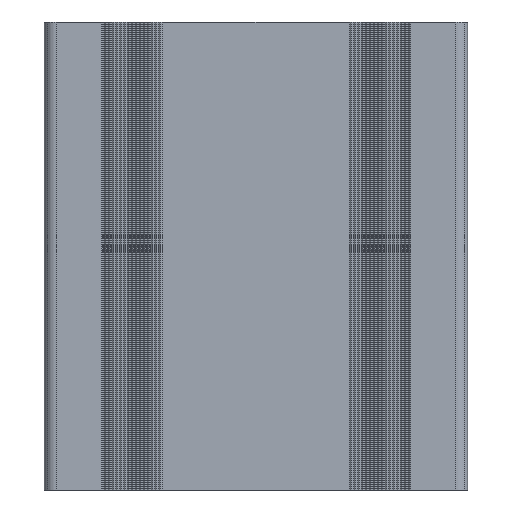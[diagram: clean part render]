
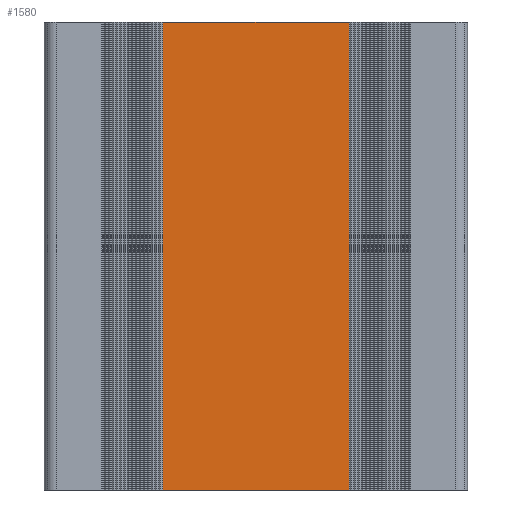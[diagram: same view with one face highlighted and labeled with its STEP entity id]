
A CAD part, front view. The second image highlights one B-rep face of the part: STEP entity #1580.
In plain terms, the highlighted planar face has unit normal (0, -1, 0).
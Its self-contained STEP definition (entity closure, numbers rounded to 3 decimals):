
#23 = CARTESIAN_POINT ( 'NONE',  ( -23.802, -14.813, -60. ) ) ;
#778 = VECTOR ( 'NONE', #1539, 1000. ) ;
#1018 = DIRECTION ( 'NONE',  ( 0., 0., -1. ) ) ;
#1211 = LINE ( 'NONE', #9578, #4612 ) ;
#1306 = CARTESIAN_POINT ( 'NONE',  ( 24.115, -14.813, -60. ) ) ;
#1539 = DIRECTION ( 'NONE',  ( 0., 0., -1. ) ) ;
#1573 = DIRECTION ( 'NONE',  ( 1., 0., 0. ) ) ;
#1580 = ADVANCED_FACE ( 'NONE', ( #6198 ), #5174, .F. ) ;
#1867 = VECTOR ( 'NONE', #1573, 1000. ) ;
#2053 = ORIENTED_EDGE ( 'NONE', *, *, #12105, .T. ) ;
#2656 = AXIS2_PLACEMENT_3D ( 'NONE', #6068, #9359, #3120 ) ;
#3112 = DIRECTION ( 'NONE',  ( 1., 0., 0. ) ) ;
#3120 = DIRECTION ( 'NONE',  ( 0., 0., 1. ) ) ;
#3506 = VERTEX_POINT ( 'NONE', #23 ) ;
#4251 = ORIENTED_EDGE ( 'NONE', *, *, #6029, .F. ) ;
#4612 = VECTOR ( 'NONE', #1018, 1000. ) ;
#4633 = VERTEX_POINT ( 'NONE', #7499 ) ;
#5159 = CARTESIAN_POINT ( 'NONE',  ( -23.802, -14.813, 60. ) ) ;
#5174 = PLANE ( 'NONE',  #2656 ) ;
#5223 = EDGE_CURVE ( 'NONE', #3506, #8449, #8755, .T. ) ;
#6029 = EDGE_CURVE ( 'NONE', #4633, #8449, #12793, .T. ) ;
#6068 = CARTESIAN_POINT ( 'NONE',  ( -23.802, -14.813, 60. ) ) ;
#6198 = FACE_OUTER_BOUND ( 'NONE', #8049, .T. ) ;
#6469 = VERTEX_POINT ( 'NONE', #10777 ) ;
#7499 = CARTESIAN_POINT ( 'NONE',  ( 24.115, -14.813, 60. ) ) ;
#7838 = CARTESIAN_POINT ( 'NONE',  ( 24.115, -14.813, 60. ) ) ;
#8049 = EDGE_LOOP ( 'NONE', ( #9137, #4251, #13351, #2053 ) ) ;
#8449 = VERTEX_POINT ( 'NONE', #1306 ) ;
#8755 = LINE ( 'NONE', #9922, #1867 ) ;
#9137 = ORIENTED_EDGE ( 'NONE', *, *, #5223, .T. ) ;
#9359 = DIRECTION ( 'NONE',  ( 0., 1., 0. ) ) ;
#9578 = CARTESIAN_POINT ( 'NONE',  ( -23.802, -14.813, 60. ) ) ;
#9922 = CARTESIAN_POINT ( 'NONE',  ( -23.802, -14.813, -60. ) ) ;
#10595 = EDGE_CURVE ( 'NONE', #6469, #4633, #13458, .T. ) ;
#10777 = CARTESIAN_POINT ( 'NONE',  ( -23.802, -14.813, 60. ) ) ;
#12105 = EDGE_CURVE ( 'NONE', #6469, #3506, #1211, .T. ) ;
#12146 = VECTOR ( 'NONE', #3112, 1000. ) ;
#12793 = LINE ( 'NONE', #7838, #778 ) ;
#13351 = ORIENTED_EDGE ( 'NONE', *, *, #10595, .F. ) ;
#13458 = LINE ( 'NONE', #5159, #12146 ) ;
